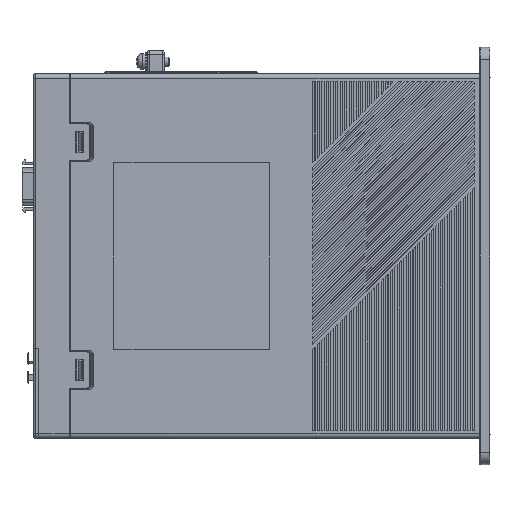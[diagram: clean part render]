
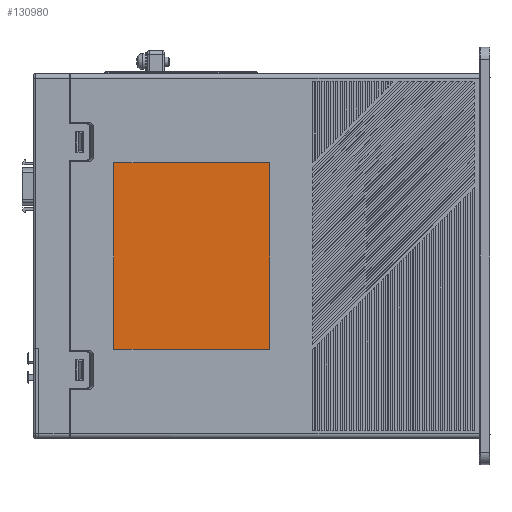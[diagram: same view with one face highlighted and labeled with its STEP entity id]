
A CAD part, left-side view. The second image highlights one B-rep face of the part: STEP entity #130980.
In plain terms, the highlighted planar face has unit normal (-1, 0, 0).
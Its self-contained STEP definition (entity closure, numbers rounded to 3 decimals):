
#120158=CARTESIAN_POINT('',(0.3,164.5,-132.001));
#120159=DIRECTION('',(1.,0.,0.));
#120160=DIRECTION('',(0.,0.,-1.));
#120161=AXIS2_PLACEMENT_3D('',#120158,#120159,#120160);
#120163=DIRECTION('',(0.,0.,1.));
#120164=VECTOR('',#120163,81.);
#120165=CARTESIAN_POINT('',(0.3,165.,-132.001));
#120166=LINE('',#120165,#120164);
#120167=CARTESIAN_POINT('',(0.3,164.5,-51.001));
#120168=DIRECTION('',(1.,0.,0.));
#120169=DIRECTION('',(0.,1.,0.));
#120170=AXIS2_PLACEMENT_3D('',#120167,#120168,#120169);
#120172=DIRECTION('',(0.,-1.,0.));
#120173=VECTOR('',#120172,67.5);
#120174=CARTESIAN_POINT('',(0.3,164.5,-50.501));
#120175=LINE('',#120174,#120173);
#120176=CARTESIAN_POINT('',(0.3,97.,-51.001));
#120177=DIRECTION('',(1.,0.,0.));
#120178=DIRECTION('',(0.,0.,1.));
#120179=AXIS2_PLACEMENT_3D('',#120176,#120177,#120178);
#120181=DIRECTION('',(0.,0.,-1.));
#120182=VECTOR('',#120181,81.);
#120183=CARTESIAN_POINT('',(0.3,96.5,-51.001));
#120184=LINE('',#120183,#120182);
#120185=CARTESIAN_POINT('',(0.3,97.,-132.001));
#120186=DIRECTION('',(1.,0.,0.));
#120187=DIRECTION('',(0.,-1.,0.));
#120188=AXIS2_PLACEMENT_3D('',#120185,#120186,#120187);
#120190=DIRECTION('',(0.,1.,0.));
#120191=VECTOR('',#120190,67.5);
#120192=CARTESIAN_POINT('',(0.3,97.,-132.501));
#120193=LINE('',#120192,#120191);
#128498=CARTESIAN_POINT('',(0.3,165.,-132.001));
#128499=CARTESIAN_POINT('',(0.3,164.5,-132.501));
#128500=VERTEX_POINT('',#128498);
#128501=VERTEX_POINT('',#128499);
#128502=CARTESIAN_POINT('',(0.3,164.5,-50.501));
#128503=CARTESIAN_POINT('',(0.3,165.,-51.001));
#128504=VERTEX_POINT('',#128502);
#128505=VERTEX_POINT('',#128503);
#128506=CARTESIAN_POINT('',(0.3,96.5,-51.001));
#128507=CARTESIAN_POINT('',(0.3,97.,-50.501));
#128508=VERTEX_POINT('',#128506);
#128509=VERTEX_POINT('',#128507);
#128510=CARTESIAN_POINT('',(0.3,97.,-132.501));
#128511=CARTESIAN_POINT('',(0.3,96.5,-132.001));
#128512=VERTEX_POINT('',#128510);
#128513=VERTEX_POINT('',#128511);
#130957=CARTESIAN_POINT('',(0.3,5.,-91.501));
#130958=DIRECTION('',(-1.,0.,0.));
#130959=DIRECTION('',(0.,0.,1.));
#130960=AXIS2_PLACEMENT_3D('',#130957,#130958,#130959);
#130961=PLANE('',#130960);
#130963=ORIENTED_EDGE('',*,*,#130962,.T.);
#130965=ORIENTED_EDGE('',*,*,#130964,.T.);
#130967=ORIENTED_EDGE('',*,*,#130966,.T.);
#130969=ORIENTED_EDGE('',*,*,#130968,.T.);
#130971=ORIENTED_EDGE('',*,*,#130970,.T.);
#130973=ORIENTED_EDGE('',*,*,#130972,.T.);
#130975=ORIENTED_EDGE('',*,*,#130974,.T.);
#130977=ORIENTED_EDGE('',*,*,#130976,.T.);
#130978=EDGE_LOOP('',(#130963,#130965,#130967,#130969,#130971,#130973,#130975,
#130977));
#130979=FACE_OUTER_BOUND('',#130978,.F.);
#120162=CIRCLE('',#120161,0.5);
#120171=CIRCLE('',#120170,0.5);
#120180=CIRCLE('',#120179,0.5);
#120189=CIRCLE('',#120188,0.5);
#130962=EDGE_CURVE('',#128501,#128500,#120162,.T.);
#130964=EDGE_CURVE('',#128500,#128505,#120166,.T.);
#130966=EDGE_CURVE('',#128505,#128504,#120171,.T.);
#130968=EDGE_CURVE('',#128504,#128509,#120175,.T.);
#130970=EDGE_CURVE('',#128509,#128508,#120180,.T.);
#130972=EDGE_CURVE('',#128508,#128513,#120184,.T.);
#130974=EDGE_CURVE('',#128513,#128512,#120189,.T.);
#130976=EDGE_CURVE('',#128512,#128501,#120193,.T.);
#130980=ADVANCED_FACE('',(#130979),#130961,.T.);
